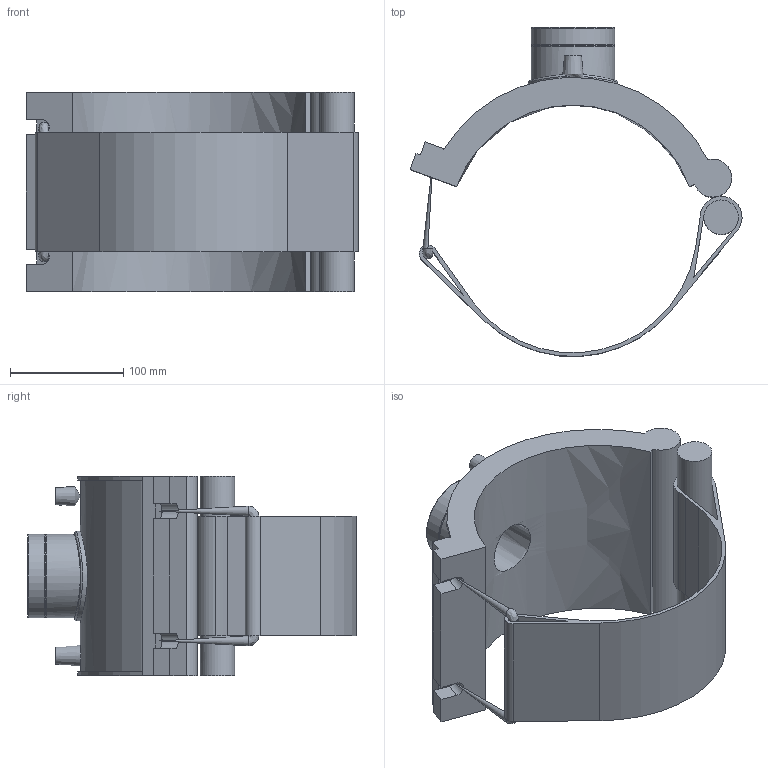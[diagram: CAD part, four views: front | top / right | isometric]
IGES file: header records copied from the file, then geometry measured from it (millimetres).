
Global section: file name: 5938B00308055.ipt; native system: Autodesk Inventor 2019; preprocessor: unknown; author: KIM; date: 20210830.101103; units: inch
Bounding box: 293.08 x 290.42 x 176.02 mm (x, y, z)
Volume: 1749252.2 mm3; surface area: 301552.5 mm2
Topology: 2 solids, 3 shells, 78 faces, 192 edges, 126 vertices
Faces by surface type: plane 42, cylinder 19, revolution 11, cone 5, bspline 1
Full cylindrical faces by diameter (mm): 4 x2, 8.748 x2, 30.45 x1, 72.653 x1, 73.653 x2, 79.318 x1
